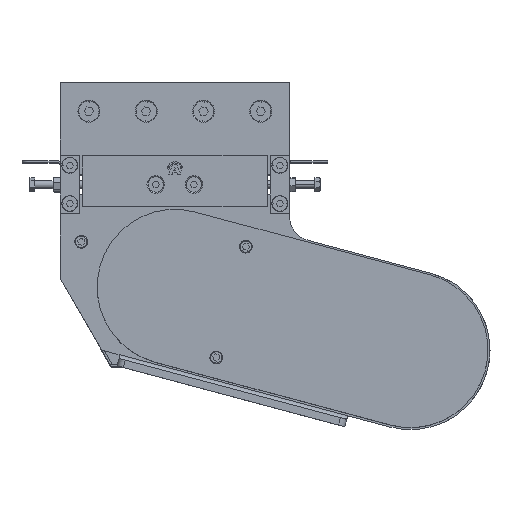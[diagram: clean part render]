
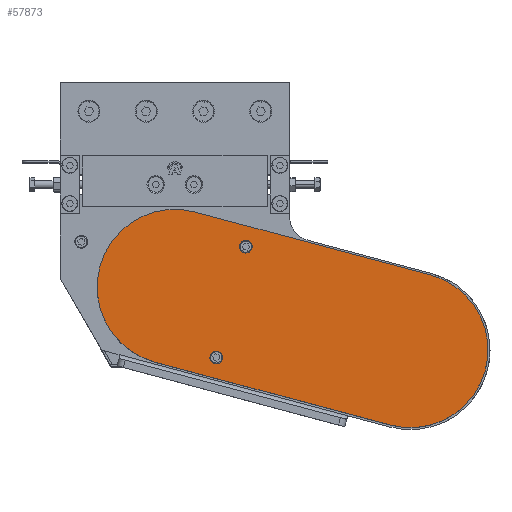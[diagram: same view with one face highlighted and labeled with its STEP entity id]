
A CAD part, top view. The second image highlights one B-rep face of the part: STEP entity #57873.
In plain terms, the highlighted planar face has unit normal (0, 0, 1) as drawn and (0, 0, -1) by its records, which use the part's own axes.
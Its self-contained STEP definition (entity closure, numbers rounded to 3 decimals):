
#807 = FACE_OUTER_BOUND ( 'NONE', #50147, .T. ) ;
#1029 = EDGE_CURVE ( 'NONE', #39594, #26400, #10963, .T. ) ;
#1390 = CARTESIAN_POINT ( 'NONE',  ( 61., 191.5, 0. ) ) ;
#1769 = CARTESIAN_POINT ( 'NONE',  ( -61., 0., 0. ) ) ;
#2200 = DIRECTION ( 'NONE',  ( 0., -1., 0. ) ) ;
#2545 = DIRECTION ( 'NONE',  ( 0., 0., -1. ) ) ;
#3153 = DIRECTION ( 'NONE',  ( 1., 0., 0. ) ) ;
#4560 = ORIENTED_EDGE ( 'NONE', *, *, #13283, .F. ) ;
#6307 = CARTESIAN_POINT ( 'NONE',  ( 0., 191.5, 0. ) ) ;
#6492 = LINE ( 'NONE', #30000, #8603 ) ;
#6622 = CARTESIAN_POINT ( 'NONE',  ( -61., 191.5, 0. ) ) ;
#8603 = VECTOR ( 'NONE', #2200, 1000. ) ;
#8671 = DIRECTION ( 'NONE',  ( 0., 1., 0. ) ) ;
#9440 = AXIS2_PLACEMENT_3D ( 'NONE', #11456, #2545, #3153 ) ;
#9869 = AXIS2_PLACEMENT_3D ( 'NONE', #29566, #47538, #38205 ) ;
#10963 = CIRCLE ( 'NONE', #24324, 61. ) ;
#11014 = CARTESIAN_POINT ( 'NONE',  ( 48.5, 145.75, 0. ) ) ;
#11147 = AXIS2_PLACEMENT_3D ( 'NONE', #14886, #19064, #42173 ) ;
#11456 = CARTESIAN_POINT ( 'NONE',  ( 45., 145.75, 0. ) ) ;
#13283 = EDGE_CURVE ( 'NONE', #37289, #39594, #32025, .T. ) ;
#13970 = VERTEX_POINT ( 'NONE', #22886 ) ;
#14378 = EDGE_LOOP ( 'NONE', ( #57249, #26265 ) ) ;
#14886 = CARTESIAN_POINT ( 'NONE',  ( 0., 191.5, 0. ) ) ;
#15620 = DIRECTION ( 'NONE',  ( 1., 0., 0. ) ) ;
#15996 = EDGE_CURVE ( 'NONE', #20243, #43502, #45247, .T. ) ;
#16951 = CARTESIAN_POINT ( 'NONE',  ( -41.5, 145.75, 0. ) ) ;
#18864 = CARTESIAN_POINT ( 'NONE',  ( 61., 0., 0. ) ) ;
#19064 = DIRECTION ( 'NONE',  ( 0., 0., 1. ) ) ;
#19175 = VERTEX_POINT ( 'NONE', #1769 ) ;
#19421 = DIRECTION ( 'NONE',  ( 1., 0., 0. ) ) ;
#20243 = VERTEX_POINT ( 'NONE', #11014 ) ;
#20858 = AXIS2_PLACEMENT_3D ( 'NONE', #39440, #43995, #30615 ) ;
#21879 = ORIENTED_EDGE ( 'NONE', *, *, #26495, .F. ) ;
#22886 = CARTESIAN_POINT ( 'NONE',  ( -48.5, 145.75, 0. ) ) ;
#23339 = CIRCLE ( 'NONE', #9869, 3.5 ) ;
#23558 = EDGE_CURVE ( 'NONE', #31569, #13970, #44201, .T. ) ;
#23631 = PLANE ( 'NONE',  #11147 ) ;
#24171 = DIRECTION ( 'NONE',  ( 0., 0., 1. ) ) ;
#24324 = AXIS2_PLACEMENT_3D ( 'NONE', #6307, #24171, #15620 ) ;
#25393 = CIRCLE ( 'NONE', #20858, 61. ) ;
#25599 = VECTOR ( 'NONE', #8671, 1000. ) ;
#25708 = ORIENTED_EDGE ( 'NONE', *, *, #1029, .F. ) ;
#26265 = ORIENTED_EDGE ( 'NONE', *, *, #53599, .F. ) ;
#26400 = VERTEX_POINT ( 'NONE', #6622 ) ;
#26495 = EDGE_CURVE ( 'NONE', #19175, #37289, #25393, .T. ) ;
#29566 = CARTESIAN_POINT ( 'NONE',  ( -45., 145.75, 0. ) ) ;
#29778 = AXIS2_PLACEMENT_3D ( 'NONE', #42522, #33512, #19421 ) ;
#30000 = CARTESIAN_POINT ( 'NONE',  ( -61., 191.5, 0. ) ) ;
#30615 = DIRECTION ( 'NONE',  ( 1., 0., 0. ) ) ;
#31569 = VERTEX_POINT ( 'NONE', #16951 ) ;
#32025 = LINE ( 'NONE', #50482, #25599 ) ;
#33512 = DIRECTION ( 'NONE',  ( 0., 0., -1. ) ) ;
#35545 = EDGE_CURVE ( 'NONE', #43502, #20243, #42883, .T. ) ;
#37289 = VERTEX_POINT ( 'NONE', #18864 ) ;
#38205 = DIRECTION ( 'NONE',  ( 1., 0., 0. ) ) ;
#38351 = ORIENTED_EDGE ( 'NONE', *, *, #15996, .F. ) ;
#39440 = CARTESIAN_POINT ( 'NONE',  ( 0., 0., 0. ) ) ;
#39594 = VERTEX_POINT ( 'NONE', #1390 ) ;
#40507 = EDGE_LOOP ( 'NONE', ( #38351, #50643 ) ) ;
#40814 = DIRECTION ( 'NONE',  ( 1., 0., 0. ) ) ;
#41020 = AXIS2_PLACEMENT_3D ( 'NONE', #45790, #45584, #40814 ) ;
#42173 = DIRECTION ( 'NONE',  ( 1., 0., 0. ) ) ;
#42522 = CARTESIAN_POINT ( 'NONE',  ( -45., 145.75, 0. ) ) ;
#42883 = CIRCLE ( 'NONE', #9440, 3.5 ) ;
#43502 = VERTEX_POINT ( 'NONE', #54940 ) ;
#43995 = DIRECTION ( 'NONE',  ( 0., 0., 1. ) ) ;
#44201 = CIRCLE ( 'NONE', #29778, 3.5 ) ;
#45247 = CIRCLE ( 'NONE', #41020, 3.5 ) ;
#45584 = DIRECTION ( 'NONE',  ( 0., 0., -1. ) ) ;
#45772 = FACE_BOUND ( 'NONE', #14378, .T. ) ;
#45790 = CARTESIAN_POINT ( 'NONE',  ( 45., 145.75, 0. ) ) ;
#47538 = DIRECTION ( 'NONE',  ( 0., 0., -1. ) ) ;
#48294 = ORIENTED_EDGE ( 'NONE', *, *, #48971, .F. ) ;
#48971 = EDGE_CURVE ( 'NONE', #26400, #19175, #6492, .T. ) ;
#50147 = EDGE_LOOP ( 'NONE', ( #25708, #4560, #21879, #48294 ) ) ;
#50482 = CARTESIAN_POINT ( 'NONE',  ( 61., 191.5, 0. ) ) ;
#50643 = ORIENTED_EDGE ( 'NONE', *, *, #35545, .F. ) ;
#52182 = FACE_BOUND ( 'NONE', #40507, .T. ) ;
#53599 = EDGE_CURVE ( 'NONE', #13970, #31569, #23339, .T. ) ;
#54940 = CARTESIAN_POINT ( 'NONE',  ( 41.5, 145.75, 0. ) ) ;
#57249 = ORIENTED_EDGE ( 'NONE', *, *, #23558, .F. ) ;
#57873 = ADVANCED_FACE ( 'NONE', ( #45772, #52182, #807 ), #23631, .F. ) ;
